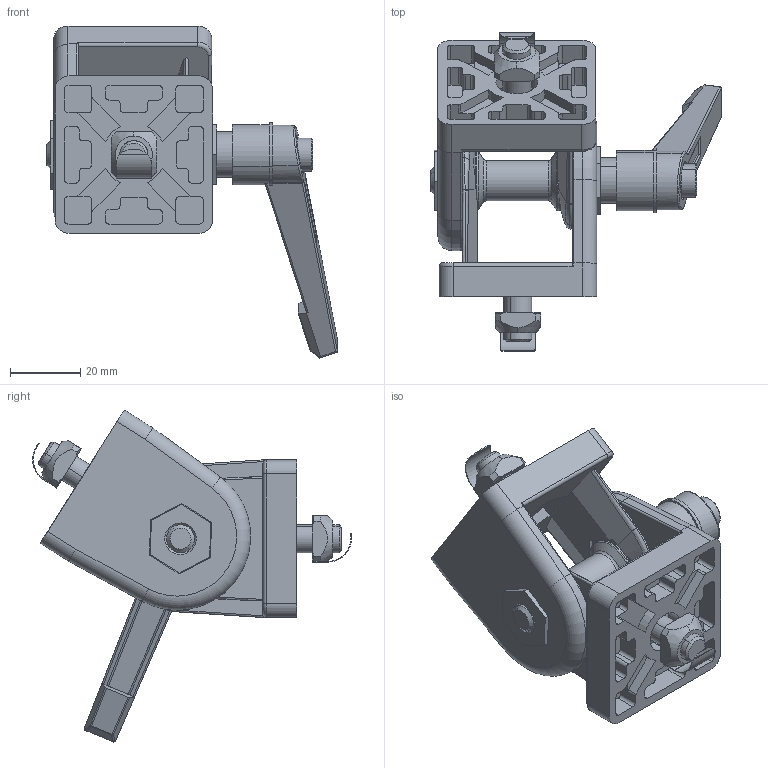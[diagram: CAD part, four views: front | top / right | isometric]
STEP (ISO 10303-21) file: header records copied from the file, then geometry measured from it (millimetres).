
FILE_DESCRIPTION (( 'STEP AP214' ), '1' );
FILE_NAME ('1.4013 Kulmauloke kiristettävä.STEP', '2025-09-11T10:57:58', ( '' ), ( '' ), 'SwSTEP 2.0', 'SolidWorks 2025', '' );
FILE_SCHEMA (( 'AUTOMOTIVE_DESIGN' ));
Length unit declared in the file: millimetre
Products named in the file (10): Part7; Part2; 1.2014 Neliömutteri M8 kiinnityslevyllä; Part4; Part2_M8; 1.2054 Uppokantaruuvi M8x20; Part3; Part5; 1.4013 Kulmauloke kiristettävä; Part1
Assembly tree (12 placements, depth 2):
  1.4013 Kulmauloke kiristettävä
    Part1  x2
    Part3
    Part2
    Part2_M8
    Part5
    Part4
    Part7
    1.2014 Neliömutteri M8 kiinnityslevyllä  x2
    1.2054 Uppokantaruuvi M8x20  x2
Bounding box: 82.93 x 91.02 x 94.78 mm (x, y, z)
Volume: 69528.3 mm3; surface area: 42238.2 mm2
Topology: 12 solids, 12 shells, 757 faces, 1930 edges, 1225 vertices
Faces by surface type: plane 396, cylinder 243, cone 50, bspline 34, torus 30, sphere 4
Entity records: 16195 total; most frequent: CARTESIAN_POINT 3829, DIRECTION 2519, ORIENTED_EDGE 2500, EDGE_CURVE 1250, AXIS2_PLACEMENT_3D 886, VERTEX_POINT 789, LINE 747, VECTOR 747
